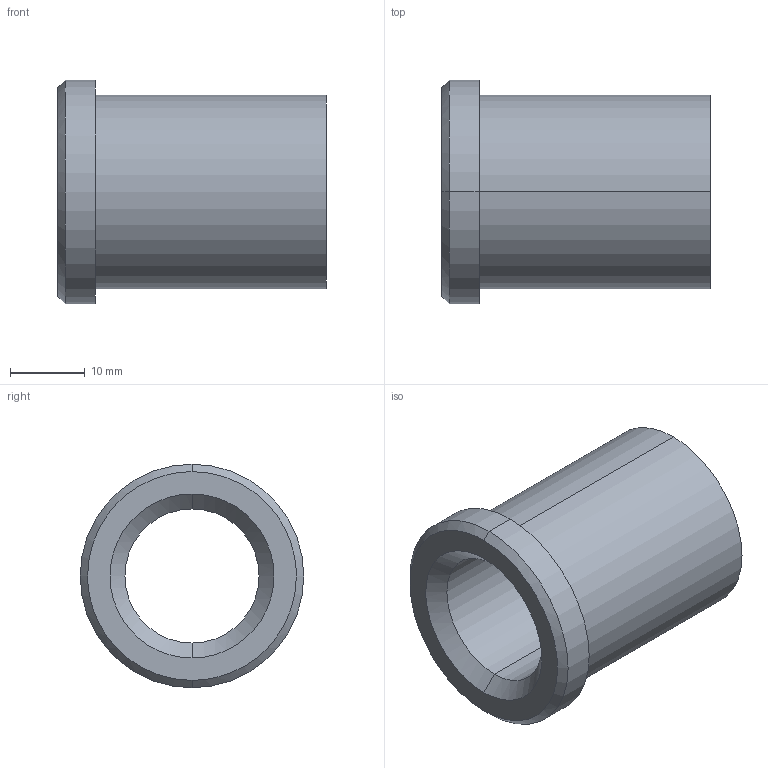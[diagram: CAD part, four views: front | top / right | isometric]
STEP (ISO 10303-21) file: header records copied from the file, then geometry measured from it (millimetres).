
FILE_DESCRIPTION(('CATIA V5 STEP Exchange'),'2;1');
FILE_NAME('C:\Users\Utente\Desktop\IO LAVORO\3D X SITO CF\X SITO\PLASTICA\353\353-18X36.stp','2021-05-08T08:43:26+00:00',('none'),('none'),'CATIA Version 5 Release 20 GA (IN-10)','CATIA V5 STEP AP203','none');
FILE_SCHEMA(('CONFIG_CONTROL_DESIGN'));
Length unit declared in the file: millimetre
Products named in the file (1): 353-18X36
Bounding box: 36 x 30 x 30 mm (x, y, z)
Volume: 10636.3 mm3; surface area: 5790.9 mm2
Topology: 1 solids, 1 shells, 15 faces, 48 edges, 36 vertices
Faces by surface type: cylinder 6, cone 4, plane 3, torus 2
Entity records: 680 total; most frequent: CARTESIAN_POINT 212, ORIENTED_EDGE 96, DIRECTION 70, EDGE_CURVE 48, AXIS2_PLACEMENT_3D 46, VERTEX_POINT 36, CIRCLE 30, EDGE_LOOP 18
